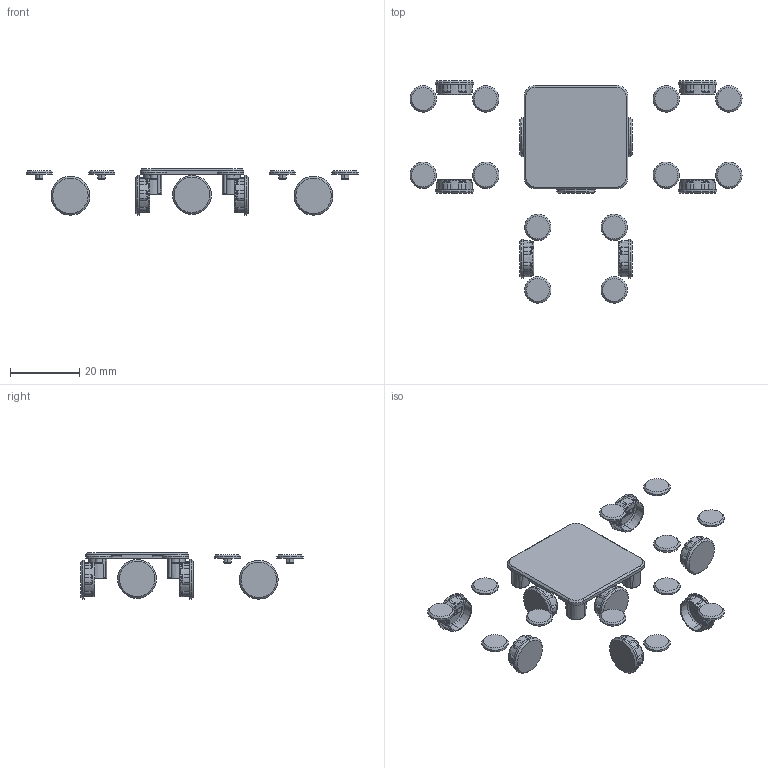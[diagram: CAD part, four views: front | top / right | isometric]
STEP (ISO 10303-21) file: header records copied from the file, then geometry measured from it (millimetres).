
FILE_DESCRIPTION((''),'2;1');
FILE_NAME('2032916_ASM','2022-07-08T14:18:15',('j.rink'),(''),'CREO PARAMETRIC BY PTC INC, 2019292','CREO PARAMETRIC BY PTC INC, 2019292','');
FILE_SCHEMA(('AUTOMOTIVE_DESIGN { 1 0 10303 214 1 1 1 1 }'));
Length unit declared in the file: millimetre
Products named in the file (6): 2031144; 2030744; 2032914_ASM; 2031047; 2032915_ASM; 2032916_ASM
Assembly tree (14 placements, depth 3):
  2032916_ASM
    2032914_ASM
      2031144
      2030744  x3
    2032915_ASM  x3
      2030744
      2031047
Bounding box: 95.6 x 64 x 13.35 mm (x, y, z)
Volume: 3325.1 mm3; surface area: 7656.9 mm2
Topology: 22 solids, 22 shells, 3383 faces, 9307 edges, 6335 vertices
Faces by surface type: plane 2587, cone 400, torus 270, cylinder 78, bspline 48
Entity records: 34071 total; most frequent: CARTESIAN_POINT 7332, ORIENTED_EDGE 4116, DIRECTION 3765, PRESENTATION_STYLE_ASSIGNMENT 2126, STYLED_ITEM 2126, CURVE_STYLE 2117, EDGE_CURVE 2058, VECTOR 1667
